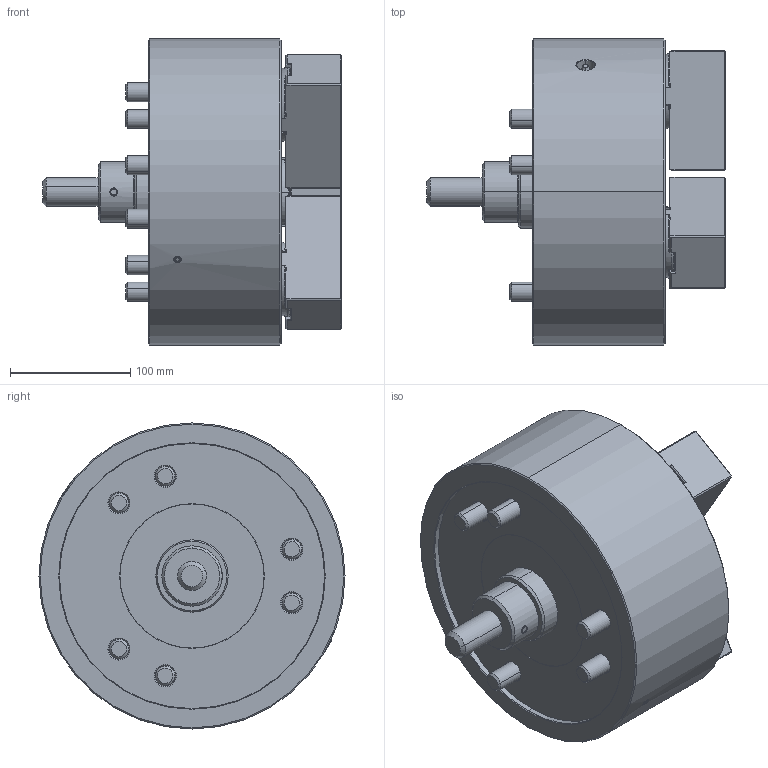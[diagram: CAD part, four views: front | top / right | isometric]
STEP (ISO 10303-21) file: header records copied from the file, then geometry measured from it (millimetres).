
FILE_DESCRIPTION (( 'STEP AP214' ), '1' );
FILE_NAME ('LU-10_OC.STEP', '2019-11-29T08:47:54', ( '' ), ( '' ), 'SwSTEP 2.0', 'SolidWorks 2017', '' );
FILE_SCHEMA (( 'AUTOMOTIVE_DESIGN' ));
Length unit declared in the file: millimetre
Products named in the file (4): 結合; 0030114030; 61P343367; LU-10_OC
Assembly tree (10 placements, depth 2):
  LU-10_OC
    61P343367  x3
    0030114030  x6
    結合
Bounding box: 248 x 254 x 254 mm (x, y, z)
Volume: 6055024.2 mm3; surface area: 421581.6 mm2
Topology: 10 solids, 11 shells, 1414 faces, 3441 edges, 2104 vertices
Faces by surface type: plane 795, cone 267, cylinder 204, bspline 116, torus 32
Entity records: 38612 total; most frequent: CARTESIAN_POINT 13570, ORIENTED_EDGE 5378, DIRECTION 4714, EDGE_CURVE 2689, VERTEX_POINT 1693, VECTOR 1620, LINE 1620, AXIS2_PLACEMENT_3D 1547
